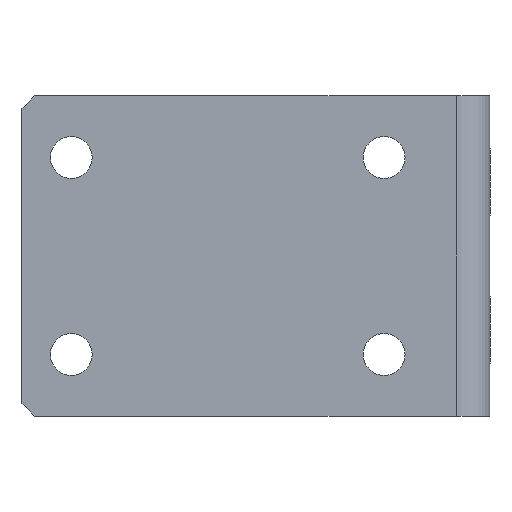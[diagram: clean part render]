
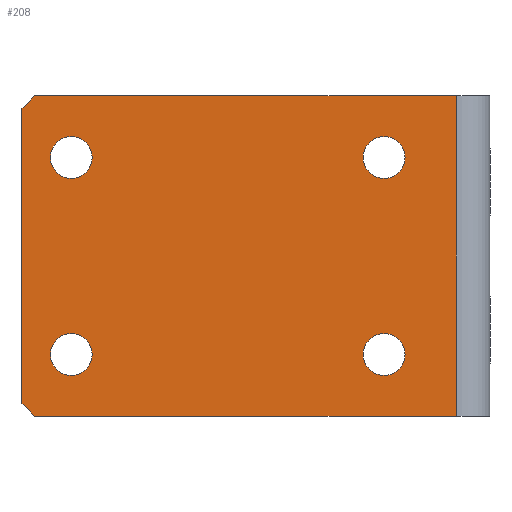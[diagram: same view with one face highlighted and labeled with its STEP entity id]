
A CAD part, front view. The second image highlights one B-rep face of the part: STEP entity #208.
In plain terms, the highlighted planar face has unit normal (0, -1, 0).
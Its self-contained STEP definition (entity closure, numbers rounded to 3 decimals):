
#5 = CIRCLE ( 'NONE', #801, 1.7 ) ;
#13 = DIRECTION ( 'NONE',  ( 0., -1., 0. ) ) ;
#15 = CARTESIAN_POINT ( 'NONE',  ( 19., -2., 13. ) ) ;
#21 = DIRECTION ( 'NONE',  ( 0., 0., -1. ) ) ;
#22 = LINE ( 'NONE', #309, #392 ) ;
#24 = ORIENTED_EDGE ( 'NONE', *, *, #888, .F. ) ;
#27 = EDGE_LOOP ( 'NONE', ( #250, #731 ) ) ;
#37 = CARTESIAN_POINT ( 'NONE',  ( -18., -2., 13. ) ) ;
#49 = VECTOR ( 'NONE', #565, 1000. ) ;
#51 = VECTOR ( 'NONE', #62, 1000. ) ;
#62 = DIRECTION ( 'NONE',  ( -0.707, 0., -0.707 ) ) ;
#65 = CIRCLE ( 'NONE', #314, 1.7 ) ;
#77 = VERTEX_POINT ( 'NONE', #335 ) ;
#80 = DIRECTION ( 'NONE',  ( 0., 0., -1. ) ) ;
#83 = ORIENTED_EDGE ( 'NONE', *, *, #860, .F. ) ;
#95 = AXIS2_PLACEMENT_3D ( 'NONE', #229, #441, #792 ) ;
#102 = EDGE_LOOP ( 'NONE', ( #447, #320 ) ) ;
#107 = ORIENTED_EDGE ( 'NONE', *, *, #842, .F. ) ;
#110 = CIRCLE ( 'NONE', #457, 1.7 ) ;
#116 = CARTESIAN_POINT ( 'NONE',  ( 10.4, -2., 9.7 ) ) ;
#120 = EDGE_CURVE ( 'NONE', #178, #920, #643, .T. ) ;
#122 = FACE_BOUND ( 'NONE', #102, .T. ) ;
#130 = CARTESIAN_POINT ( 'NONE',  ( -19., -2., 12. ) ) ;
#131 = LINE ( 'NONE', #494, #49 ) ;
#132 = DIRECTION ( 'NONE',  ( 0., 0., -1. ) ) ;
#141 = VECTOR ( 'NONE', #182, 1000. ) ;
#149 = CARTESIAN_POINT ( 'NONE',  ( 10.4, -2., 8. ) ) ;
#174 = ORIENTED_EDGE ( 'NONE', *, *, #367, .F. ) ;
#178 = VERTEX_POINT ( 'NONE', #936 ) ;
#182 = DIRECTION ( 'NONE',  ( 0., 0., 1. ) ) ;
#189 = CARTESIAN_POINT ( 'NONE',  ( -15., -2., -8. ) ) ;
#192 = FACE_OUTER_BOUND ( 'NONE', #605, .T. ) ;
#194 = CARTESIAN_POINT ( 'NONE',  ( -15., -2., 9.7 ) ) ;
#208 = ADVANCED_FACE ( 'NONE', ( #411, #122, #278, #647, #192 ), #421, .F. ) ;
#217 = EDGE_CURVE ( 'NONE', #766, #227, #5, .T. ) ;
#219 = CARTESIAN_POINT ( 'NONE',  ( -18., -2., -13. ) ) ;
#225 = VERTEX_POINT ( 'NONE', #116 ) ;
#227 = VERTEX_POINT ( 'NONE', #415 ) ;
#228 = DIRECTION ( 'NONE',  ( 0., 0., -1. ) ) ;
#229 = CARTESIAN_POINT ( 'NONE',  ( -15., -2., -8. ) ) ;
#233 = DIRECTION ( 'NONE',  ( 0., 0., -1. ) ) ;
#235 = CIRCLE ( 'NONE', #95, 1.7 ) ;
#248 = EDGE_CURVE ( 'NONE', #227, #766, #235, .T. ) ;
#250 = ORIENTED_EDGE ( 'NONE', *, *, #217, .F. ) ;
#252 = AXIS2_PLACEMENT_3D ( 'NONE', #923, #620, #569 ) ;
#263 = DIRECTION ( 'NONE',  ( 0., 1., 0. ) ) ;
#271 = CIRCLE ( 'NONE', #442, 1.7 ) ;
#274 = EDGE_CURVE ( 'NONE', #732, #475, #284, .T. ) ;
#276 = ORIENTED_EDGE ( 'NONE', *, *, #120, .T. ) ;
#277 = DIRECTION ( 'NONE',  ( 0., 0., -1. ) ) ;
#278 = FACE_BOUND ( 'NONE', #852, .T. ) ;
#284 = LINE ( 'NONE', #219, #786 ) ;
#291 = VERTEX_POINT ( 'NONE', #378 ) ;
#303 = CIRCLE ( 'NONE', #348, 1.7 ) ;
#307 = VERTEX_POINT ( 'NONE', #744 ) ;
#308 = LINE ( 'NONE', #15, #758 ) ;
#309 = CARTESIAN_POINT ( 'NONE',  ( 19., -2., -13. ) ) ;
#314 = AXIS2_PLACEMENT_3D ( 'NONE', #894, #13, #233 ) ;
#319 = CARTESIAN_POINT ( 'NONE',  ( -15., -2., 6.3 ) ) ;
#320 = ORIENTED_EDGE ( 'NONE', *, *, #597, .F. ) ;
#335 = CARTESIAN_POINT ( 'NONE',  ( 10.4, -2., -6.3 ) ) ;
#348 = AXIS2_PLACEMENT_3D ( 'NONE', #624, #705, #21 ) ;
#354 = DIRECTION ( 'NONE',  ( 0., 0., 1. ) ) ;
#361 = DIRECTION ( 'NONE',  ( 0., -1., 0. ) ) ;
#367 = EDGE_CURVE ( 'NONE', #371, #904, #65, .T. ) ;
#371 = VERTEX_POINT ( 'NONE', #319 ) ;
#378 = CARTESIAN_POINT ( 'NONE',  ( -19., -2., 12. ) ) ;
#392 = VECTOR ( 'NONE', #824, 1000. ) ;
#401 = VERTEX_POINT ( 'NONE', #764 ) ;
#411 = FACE_BOUND ( 'NONE', #27, .T. ) ;
#415 = CARTESIAN_POINT ( 'NONE',  ( -15., -2., -6.3 ) ) ;
#421 = PLANE ( 'NONE',  #423 ) ;
#423 = AXIS2_PLACEMENT_3D ( 'NONE', #703, #263, #354 ) ;
#424 = CIRCLE ( 'NONE', #252, 1.7 ) ;
#435 = EDGE_CURVE ( 'NONE', #178, #475, #22, .T. ) ;
#441 = DIRECTION ( 'NONE',  ( 0., -1., 0. ) ) ;
#442 = AXIS2_PLACEMENT_3D ( 'NONE', #555, #598, #80 ) ;
#447 = ORIENTED_EDGE ( 'NONE', *, *, #622, .F. ) ;
#457 = AXIS2_PLACEMENT_3D ( 'NONE', #481, #768, #277 ) ;
#466 = ORIENTED_EDGE ( 'NONE', *, *, #521, .F. ) ;
#475 = VERTEX_POINT ( 'NONE', #547 ) ;
#481 = CARTESIAN_POINT ( 'NONE',  ( 10.4, -2., -8. ) ) ;
#494 = CARTESIAN_POINT ( 'NONE',  ( -19., -2., 13. ) ) ;
#521 = EDGE_CURVE ( 'NONE', #732, #291, #131, .T. ) ;
#545 = AXIS2_PLACEMENT_3D ( 'NONE', #149, #361, #228 ) ;
#547 = CARTESIAN_POINT ( 'NONE',  ( -18., -2., -13. ) ) ;
#555 = CARTESIAN_POINT ( 'NONE',  ( 10.4, -2., 8. ) ) ;
#565 = DIRECTION ( 'NONE',  ( 0., 0., 1. ) ) ;
#568 = LINE ( 'NONE', #130, #51 ) ;
#569 = DIRECTION ( 'NONE',  ( 0., 0., -1. ) ) ;
#574 = CARTESIAN_POINT ( 'NONE',  ( -19., -2., -12. ) ) ;
#597 = EDGE_CURVE ( 'NONE', #77, #307, #110, .T. ) ;
#598 = DIRECTION ( 'NONE',  ( 0., -1., 0. ) ) ;
#603 = CIRCLE ( 'NONE', #545, 1.7 ) ;
#605 = EDGE_LOOP ( 'NONE', ( #466, #722, #725, #276, #83, #754 ) ) ;
#610 = ORIENTED_EDGE ( 'NONE', *, *, #673, .F. ) ;
#620 = DIRECTION ( 'NONE',  ( 0., -1., 0. ) ) ;
#622 = EDGE_CURVE ( 'NONE', #307, #77, #424, .T. ) ;
#624 = CARTESIAN_POINT ( 'NONE',  ( -15., -2., 8. ) ) ;
#643 = LINE ( 'NONE', #856, #141 ) ;
#645 = CARTESIAN_POINT ( 'NONE',  ( 16.263, -2., 13. ) ) ;
#647 = FACE_BOUND ( 'NONE', #933, .T. ) ;
#668 = DIRECTION ( 'NONE',  ( 0.707, 0., -0.707 ) ) ;
#673 = EDGE_CURVE ( 'NONE', #401, #225, #603, .T. ) ;
#703 = CARTESIAN_POINT ( 'NONE',  ( 0., -2., 0. ) ) ;
#705 = DIRECTION ( 'NONE',  ( 0., -1., 0. ) ) ;
#722 = ORIENTED_EDGE ( 'NONE', *, *, #274, .T. ) ;
#725 = ORIENTED_EDGE ( 'NONE', *, *, #435, .F. ) ;
#731 = ORIENTED_EDGE ( 'NONE', *, *, #248, .F. ) ;
#732 = VERTEX_POINT ( 'NONE', #574 ) ;
#744 = CARTESIAN_POINT ( 'NONE',  ( 10.4, -2., -9.7 ) ) ;
#747 = DIRECTION ( 'NONE',  ( 1., 0., 0. ) ) ;
#754 = ORIENTED_EDGE ( 'NONE', *, *, #918, .T. ) ;
#758 = VECTOR ( 'NONE', #747, 1000. ) ;
#764 = CARTESIAN_POINT ( 'NONE',  ( 10.4, -2., 6.3 ) ) ;
#766 = VERTEX_POINT ( 'NONE', #879 ) ;
#768 = DIRECTION ( 'NONE',  ( 0., -1., 0. ) ) ;
#786 = VECTOR ( 'NONE', #668, 1000. ) ;
#789 = DIRECTION ( 'NONE',  ( 0., -1., 0. ) ) ;
#792 = DIRECTION ( 'NONE',  ( 0., 0., -1. ) ) ;
#801 = AXIS2_PLACEMENT_3D ( 'NONE', #189, #789, #132 ) ;
#824 = DIRECTION ( 'NONE',  ( -1., 0., 0. ) ) ;
#842 = EDGE_CURVE ( 'NONE', #225, #401, #271, .T. ) ;
#852 = EDGE_LOOP ( 'NONE', ( #174, #24 ) ) ;
#856 = CARTESIAN_POINT ( 'NONE',  ( 16.263, -2., -13. ) ) ;
#860 = EDGE_CURVE ( 'NONE', #878, #920, #308, .T. ) ;
#878 = VERTEX_POINT ( 'NONE', #37 ) ;
#879 = CARTESIAN_POINT ( 'NONE',  ( -15., -2., -9.7 ) ) ;
#888 = EDGE_CURVE ( 'NONE', #904, #371, #303, .T. ) ;
#894 = CARTESIAN_POINT ( 'NONE',  ( -15., -2., 8. ) ) ;
#904 = VERTEX_POINT ( 'NONE', #194 ) ;
#918 = EDGE_CURVE ( 'NONE', #878, #291, #568, .T. ) ;
#920 = VERTEX_POINT ( 'NONE', #645 ) ;
#923 = CARTESIAN_POINT ( 'NONE',  ( 10.4, -2., -8. ) ) ;
#933 = EDGE_LOOP ( 'NONE', ( #610, #107 ) ) ;
#936 = CARTESIAN_POINT ( 'NONE',  ( 16.263, -2., -13. ) ) ;
